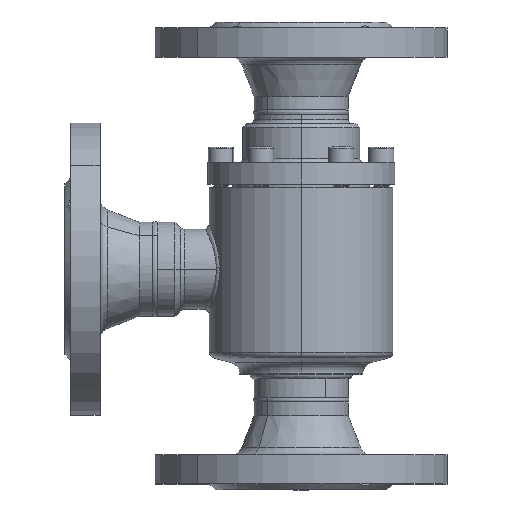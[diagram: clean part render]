
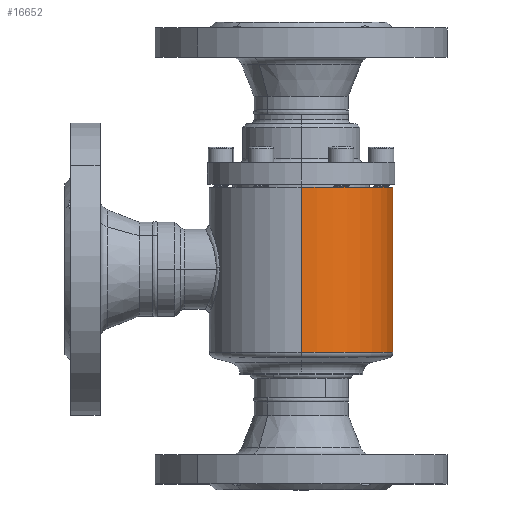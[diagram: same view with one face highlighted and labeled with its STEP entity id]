
A CAD part, top view. The second image highlights one B-rep face of the part: STEP entity #16652.
In plain terms, the highlighted cylindrical face has radius 47 mm (diameter 94 mm), a partial arc.
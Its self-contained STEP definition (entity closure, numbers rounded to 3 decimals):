
#16412 = EDGE_LOOP ( 'NONE', ( #6825, #22757, #11666, #8224 ) ) ;
#16652 = ADVANCED_FACE ( 'NONE', ( #5476 ), #5477, .T. ) ;
#976 = LINE ( 'NONE', #977, #978 ) ;
#977 = CARTESIAN_POINT ( 'NONE',  ( 0., 76.795, -47. ) ) ;
#978 = VECTOR ( 'NONE', #979, 1000. ) ;
#979 = DIRECTION ( 'NONE',  ( 0., 1., 0. ) ) ;
#17948 = VERTEX_POINT ( 'NONE', #14442 ) ;
#18172 = EDGE_CURVE ( 'NONE', #17948, #9136, #14767, .T. ) ;
#4620 = CARTESIAN_POINT ( 'NONE',  ( 0., 80.527, 47. ) ) ;
#5206 = CIRCLE ( 'NONE', #5207, 47. ) ;
#5207 = AXIS2_PLACEMENT_3D ( 'NONE', #5208, #5209, #5210 ) ;
#5208 = CARTESIAN_POINT ( 'NONE',  ( 0., 80.527, 0. ) ) ;
#5209 = DIRECTION ( 'NONE',  ( 0., 1., 0. ) ) ;
#5210 = DIRECTION ( 'NONE',  ( 0., 0., 1. ) ) ;
#5476 = FACE_OUTER_BOUND ( 'NONE', #16412, .T. ) ;
#5477 = CYLINDRICAL_SURFACE ( 'NONE', #5478, 47. ) ;
#5478 = AXIS2_PLACEMENT_3D ( 'NONE', #5479, #5480, #5481 ) ;
#5479 = CARTESIAN_POINT ( 'NONE',  ( 0., 76.795, 0. ) ) ;
#5480 = DIRECTION ( 'NONE',  ( 0., 1., 0. ) ) ;
#5481 = DIRECTION ( 'NONE',  ( 0., 0., 1. ) ) ;
#5540 = EDGE_CURVE ( 'NONE', #16096, #10616, #5206, .T. ) ;
#22588 = EDGE_CURVE ( 'NONE', #9136, #10616, #976, .T. ) ;
#22757 = ORIENTED_EDGE ( 'NONE', *, *, #22588, .T. ) ;
#6825 = ORIENTED_EDGE ( 'NONE', *, *, #18172, .T. ) ;
#24460 = LINE ( 'NONE', #24461, #24462 ) ;
#24461 = CARTESIAN_POINT ( 'NONE',  ( 0., 76.795, 47. ) ) ;
#24462 = VECTOR ( 'NONE', #24463, 1000. ) ;
#24463 = DIRECTION ( 'NONE',  ( 0., 1., 0. ) ) ;
#8224 = ORIENTED_EDGE ( 'NONE', *, *, #10112, .F. ) ;
#9136 = VERTEX_POINT ( 'NONE', #15315 ) ;
#26071 = CARTESIAN_POINT ( 'NONE',  ( 0., 80.527, -47. ) ) ;
#10112 = EDGE_CURVE ( 'NONE', #17948, #16096, #24460, .T. ) ;
#10616 = VERTEX_POINT ( 'NONE', #26071 ) ;
#11666 = ORIENTED_EDGE ( 'NONE', *, *, #5540, .F. ) ;
#14442 = CARTESIAN_POINT ( 'NONE',  ( 0., -4.017, 47. ) ) ;
#14767 = CIRCLE ( 'NONE', #14768, 47. ) ;
#14768 = AXIS2_PLACEMENT_3D ( 'NONE', #14769, #14770, #14771 ) ;
#14769 = CARTESIAN_POINT ( 'NONE',  ( 0., -4.017, 0. ) ) ;
#14770 = DIRECTION ( 'NONE',  ( 0., 1., 0. ) ) ;
#14771 = DIRECTION ( 'NONE',  ( 0., 0., 1. ) ) ;
#15315 = CARTESIAN_POINT ( 'NONE',  ( 0., -4.017, -47. ) ) ;
#16096 = VERTEX_POINT ( 'NONE', #4620 ) ;
